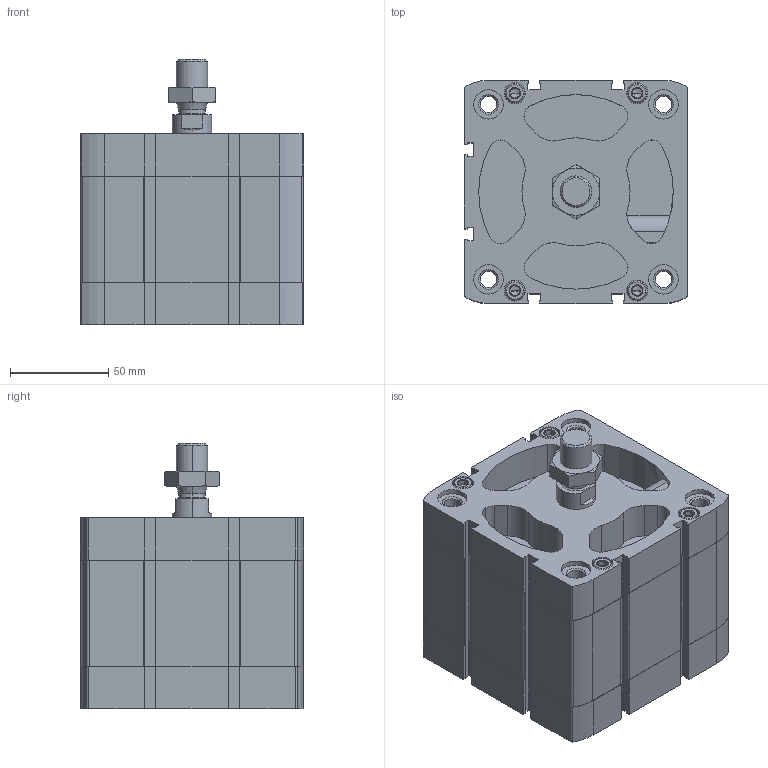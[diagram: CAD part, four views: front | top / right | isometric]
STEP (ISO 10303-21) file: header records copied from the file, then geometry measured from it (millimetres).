
FILE_DESCRIPTION (( 'STEP AP203' ), '1' );
FILE_NAME ('CCN100-30M.STEP', '2020-06-05T18:06:50', ( '' ), ( '' ), 'SwSTEP 2.0', 'SolidWorks 2019', '' );
FILE_SCHEMA (( 'CONFIG_CONTROL_DESIGN' ));
Length unit declared in the file: millimetre
Products named in the file (1): CCN100-30M
Bounding box: 113.5 x 113.5 x 134.8 mm (x, y, z)
Volume: 834021.6 mm3; surface area: 173528.9 mm2
Topology: 3 solids, 3 shells, 648 faces, 1673 edges, 1068 vertices
Faces by surface type: plane 292, cylinder 272, cone 80, torus 4
Entity records: 21246 total; most frequent: CARTESIAN_POINT 4984, DIRECTION 3541, ORIENTED_EDGE 3314, EDGE_CURVE 1657, AXIS2_PLACEMENT_3D 1319, VERTEX_POINT 1068, VECTOR 903, LINE 903
